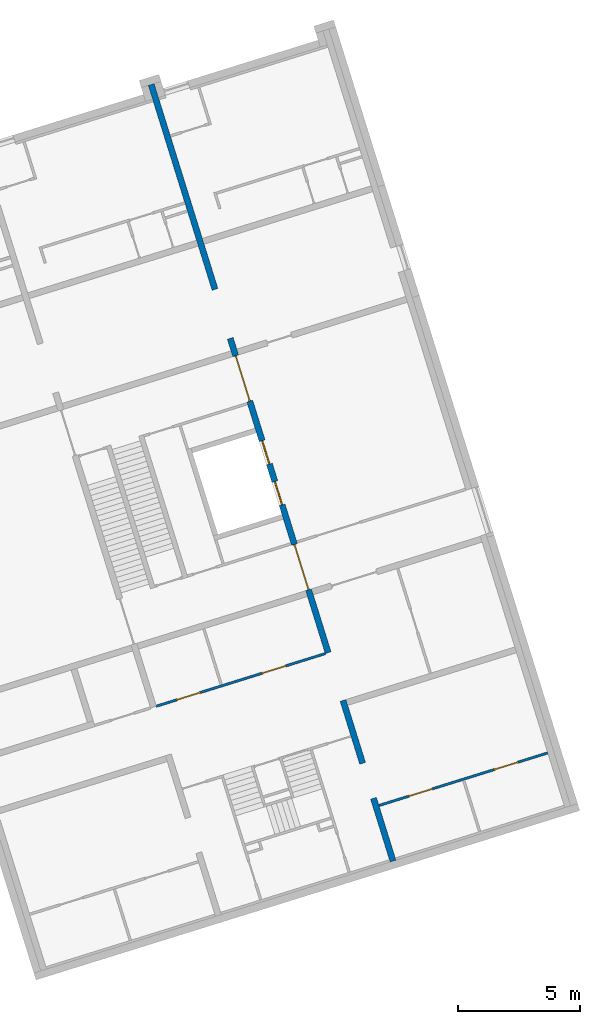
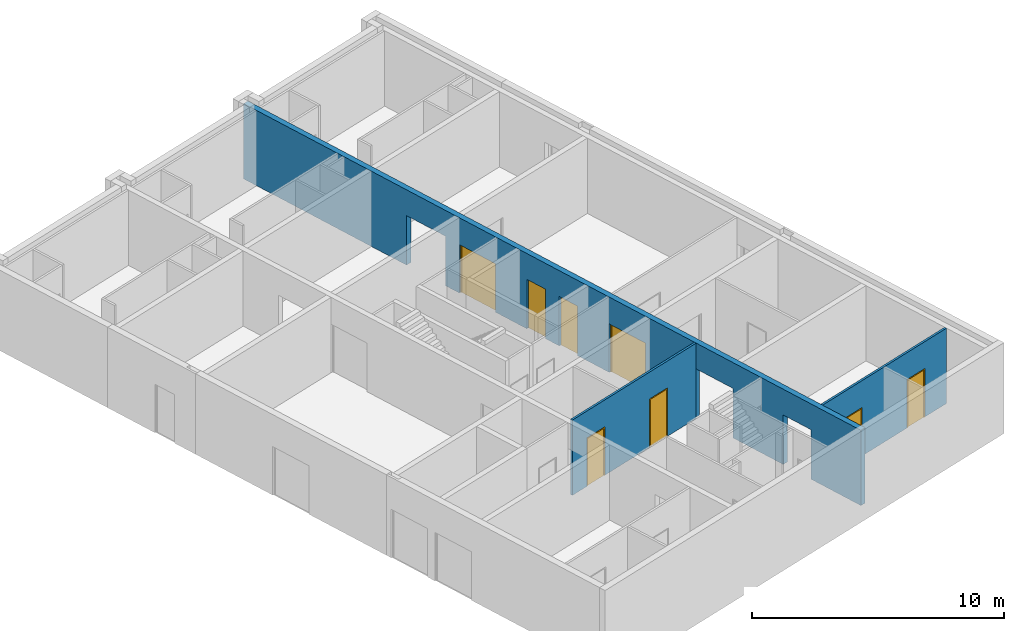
# One storey, part 8 of 10: 8 doors, 3 walls, 11 openings.
"""IFC4 building model written with IfcOpenShell, lengths in metres."""

from ifc_helpers import new_model, entity, si_unit, converted_unit, direction, frame, origin, place, context, subcontext, project, spatial, indexed_curve, outline, extrude, polygons, source, transform, mapped, material, constituent, constituent_set, type_object, type_shapes, element, fill, save


model = new_model("IFC4")

# Units and contexts
model_context = context("Model", 3, precision=1e-05, world=origin(), true_north=direction((6.12323399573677e-17, 1.0)))
body_context = subcontext(model_context, "Body", "Model", "MODEL_VIEW")
ifc_project = project(units=[si_unit("LENGTHUNIT", "METRE"), si_unit("AREAUNIT", "SQUARE_METRE"), converted_unit("PLANEANGLEUNIT", "DEGREE", entity("IfcPlaneAngleMeasure", 0.0174532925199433), si_unit("PLANEANGLEUNIT", "RADIAN"), dimensions=[0, 0, 0, 0, 0, 0, 0]), si_unit("VOLUMEUNIT", "CUBIC_METRE")], contexts=[model_context])

# Site, building, storey
site_placement = place(None, frame((13.1347999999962, 11.9886000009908, 0.0), z_axis=(0.0, 0.0, 1.0), x_axis=(0.954770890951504, 0.297342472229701, 0.0)))
site = spatial("IfcSite", under=ifc_project, at=site_placement, Name="Schiehaven", CompositionType="ELEMENT")
building_placement = place(site_placement, origin())
building = spatial("IfcBuilding", under=site, at=building_placement, Name="VORM huis", CompositionType="ELEMENT")
storey_placement = place(building_placement, origin())
storey = spatial("IfcBuildingStorey", under=building, at=storey_placement, Name="00 begane grond", CompositionType="ELEMENT", Elevation=0.0)

# Wall, openings, doors
ifc_material_1 = material(Name="beton_gewapend_ihw", Category="Miscellaneous")
wall_type_1 = type_object("IfcWallType", Name="Basic Wall:28_WA_skelet_wand 250mm_gen", PredefinedType="STANDARD")
wall_1_placement = place(storey_placement, frame((72.5000000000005, 0.374999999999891, 0.0), z_axis=(0.0, 0.0, 1.0), x_axis=(0.0, 1.0, 0.0)))
wall_1 = element("IfcWall", 1, at=wall_1_placement, inside=storey, type_object=wall_type_1, material=ifc_material_1, Name="Constructieve wand", ObjectType="Wand", PredefinedType="NOTDEFINED", context=body_context, shape_type="Tessellation", body=[
    polygons([(18.05, -0.125000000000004, 2.03576600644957e-32), (19.75, -0.125, 0.0), (19.75, -0.125, 2.34999999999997), (21.7, -0.125000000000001, 2.34999999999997), (21.7, -0.125000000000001, 0.0), (22.4500000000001, -0.125000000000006, 0.0), (22.4500000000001, -0.125000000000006, 2.4), (24.5500000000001, -0.124999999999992, 2.4), (24.5500000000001, -0.124999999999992, 0.0), (33.35, -0.125000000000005, 0.0), (33.35, -0.125000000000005, 3.65), (1.28590471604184e-15, -0.125000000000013, 3.65), (2.03037586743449e-15, -0.125000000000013, 0.0), (2.70000000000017, -0.125000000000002, 0.0), (2.70000000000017, -0.125000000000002, 2.4), (4.20000000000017, -0.124999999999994, 2.4), (4.20000000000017, -0.125000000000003, 0.0), (6.90000000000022, -0.125, 0.0), (6.90000000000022, -0.125, 2.4), (8.90000000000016, -0.125000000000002, 2.4), (8.90000000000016, -0.125000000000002, 0.0), (11.65, -0.125, 0.0), (11.65, -0.125, 2.34999999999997), (13.6, -0.125000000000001, 2.34999999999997), (13.6, -0.125000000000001, 0.0), (15.3, -0.125000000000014, 0.0), (15.3, -0.125000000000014, 2.39999999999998), (16.3, -0.125000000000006, 2.39999999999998), (16.3, -0.125000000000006, -1.48156555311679e-45), (17.05, -0.124999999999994, 0.0), (17.05, -0.124999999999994, 2.39999999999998), (18.05, -0.125000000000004, 2.39999999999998), (19.75, 0.125000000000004, 2.34999999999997), (19.75, 0.125000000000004, 0.0), (18.05, 0.125, -2.03576600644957e-32), (18.05, 0.125, 2.39999999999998), (17.05, 0.125000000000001, 2.39999999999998), (17.05, 0.125000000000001, -2.03576600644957e-32), (16.3, 0.125000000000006, -1.48156555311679e-45), (16.3, 0.125000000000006, 2.39999999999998), (15.3, 0.124999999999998, 2.39999999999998), (15.3, 0.124999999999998, 0.0), (13.6, 0.124999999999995, 0.0), (13.6, 0.124999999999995, 2.34999999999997), (11.65, 0.125000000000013, 2.34999999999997), (11.65, 0.125000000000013, 0.0), (11.4, 0.125, 0.0), (9.00000000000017, 0.125, 0.0), (8.90000000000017, 0.125000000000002, 0.0), (8.90000000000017, 0.125000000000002, 2.4), (6.90000000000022, 0.125000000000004, 2.4), (6.90000000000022, 0.125000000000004, 0.0), (4.20000000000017, 0.12500000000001, 0.0), (4.20000000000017, 0.12500000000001, 2.4), (2.70000000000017, 0.125000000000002, 2.4), (2.70000000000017, 0.125000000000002, 0.0), (2.23341345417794e-15, 0.124999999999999, 0.0), (1.48894230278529e-15, 0.124999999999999, 3.65), (8.90000000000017, 0.125000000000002, 3.65), (9.00000000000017, 0.125, 3.65), (11.4, 0.125, 3.65), (11.65, 0.125000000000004, 3.65), (21.7, 0.125000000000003, 3.65), (21.95, 0.124999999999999, 3.65), (33.35, 0.124999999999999, 3.65), (33.35, 0.124999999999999, 0.0), (24.5500000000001, 0.125000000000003, 0.0), (24.5500000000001, 0.125000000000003, 2.4), (22.4500000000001, 0.124999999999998, 2.4), (22.4500000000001, 0.124999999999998, 0.0), (21.95, 0.124999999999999, 0.0), (21.7, 0.125000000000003, 0.0), (21.7, 0.125000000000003, 2.34999999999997)], [[[1, 2, 3, 4, 5, 6, 7, 8, 9, 10, 11, 12, 13, 14, 15, 16, 17, 18, 19, 20, 21, 22, 23, 24, 25, 26, 27, 28, 29, 30, 31, 32]], [[33, 34, 35, 36, 37, 38, 39, 40, 41, 42, 43, 44, 45, 46, 47, 48, 49, 50, 51, 52, 53, 54, 55, 56, 57, 58, 59, 60, 61, 62, 63, 64, 65, 66, 67, 68, 69, 70, 71, 72, 73]], [[13, 57, 56, 14]], [[11, 10, 66, 65]], [[12, 11, 65, 64, 63, 62, 61, 60, 59, 58]], [[13, 12, 58, 57]], [[32, 36, 35, 1]], [[37, 31, 30, 38]], [[36, 32, 31, 37]], [[28, 40, 39, 29]], [[41, 27, 26, 42]], [[40, 28, 27, 41]], [[5, 4, 73, 72]], [[3, 2, 34, 33]], [[4, 3, 33, 73]], [[46, 45, 23, 22]], [[44, 43, 25, 24]], [[45, 44, 24, 23]], [[69, 7, 6, 70]], [[8, 68, 67, 9]], [[7, 69, 68, 8]], [[15, 55, 54, 16]], [[55, 15, 14, 56]], [[16, 54, 53, 17]], [[19, 51, 50, 20]], [[51, 19, 18, 52]], [[20, 50, 49, 21]], [[17, 53, 52, 18]], [[22, 21, 49, 48, 47, 46]], [[26, 25, 43, 42]], [[38, 30, 29, 39]], [[35, 34, 2, 1]], [[72, 71, 70, 6, 5]], [[66, 10, 9, 67]]], closed=True),
])
opening_1_placement = place(wall_1_placement, origin())
element("IfcOpeningElement", 2, at=opening_1_placement, cuts=wall_1, Name="Constructieve wand", PredefinedType="OPENING", context=body_context, shape_type="SweptSolid", body=[
    extrude(outline(indexed_curve([(-1.2, -1.05), (1.2, -1.05), (1.2, 1.05), (-1.2, 1.05), (-1.2, -1.05)], self_intersect=False)), frame((23.5000000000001, -0.124999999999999, 1.2), z_axis=(0.0, 1.0, 0.0), x_axis=(0.0, 0.0, -1.0)), (0.0, 0.0, 1.0), 0.249999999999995),
])
opening_2_placement = place(wall_1_placement, origin())
element("IfcOpeningElement", 3, at=opening_2_placement, cuts=wall_1, Name="Constructieve wand", PredefinedType="OPENING", context=body_context, shape_type="SweptSolid", body=[
    extrude(outline(indexed_curve([(-1.2, -0.75), (1.2, -0.75), (1.2, 0.750000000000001), (-1.2, 0.750000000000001), (-1.2, -0.75)], self_intersect=False)), frame((3.45000000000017, -0.124999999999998, 1.2), z_axis=(0.0, 1.0, 0.0), x_axis=(0.0, 0.0, -1.0)), (0.0, 0.0, 1.0), 0.249999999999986),
])
opening_3_placement = place(wall_1_placement, origin())
element("IfcOpeningElement", 4, at=opening_3_placement, cuts=wall_1, Name="Constructieve wand", PredefinedType="OPENING", context=body_context, shape_type="SweptSolid", body=[
    extrude(outline(indexed_curve([(-1.2, -1.02499999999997), (1.2, -1.02499999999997), (1.2, 1.02499999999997), (-1.2, 1.02499999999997), (-1.2, -1.02499999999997)], self_intersect=False)), frame((7.92500000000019, -0.124999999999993, 1.2), z_axis=(0.0, 1.0, 0.0), x_axis=(0.0, 0.0, -1.0)), (0.0, 0.0, 1.0), 0.249999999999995),
])
opening_4_placement = place(wall_1_placement, frame((-0.374999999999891, 72.5000000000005, 0.0), z_axis=(0.0, 0.0, 1.0), x_axis=(0.0, -1.0, 0.0)))
opening_4 = element("IfcOpeningElement", 5, at=opening_4_placement, cuts=wall_1, Name="Brandweerlift", PredefinedType="OPENING", context=body_context, shape_type="SweptSolid", body=[
    extrude(outline(indexed_curve([(-1.19999999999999, -0.500000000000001), (1.19999999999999, -0.500000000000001), (1.19999999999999, 0.499999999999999), (-1.19999999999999, 0.499999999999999), (-1.19999999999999, -0.500000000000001)], self_intersect=False)), frame((72.7936720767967, 17.9249999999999, 1.19999999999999), z_axis=(-1.0, 0.0, 0.0), x_axis=(0.0, 0.0, -1.0)), (0.0, 0.0, 1.0), 0.756310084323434),
])
opening_5_placement = place(wall_1_placement, frame((-0.374999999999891, 72.5000000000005, 0.0), z_axis=(0.0, 0.0, 1.0), x_axis=(0.0, -1.0, 0.0)))
opening_5 = element("IfcOpeningElement", 6, at=opening_5_placement, cuts=wall_1, Name="Brandweerlift", PredefinedType="OPENING", context=body_context, shape_type="SweptSolid", body=[
    extrude(outline(indexed_curve([(-1.19999999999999, -0.499999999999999), (1.19999999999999, -0.499999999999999), (1.19999999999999, 0.500000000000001), (-1.19999999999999, 0.500000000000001), (-1.19999999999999, -0.499999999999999)], self_intersect=False)), frame((72.7936720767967, 16.1749999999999, 1.19999999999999), z_axis=(-1.0, 0.0, 0.0), x_axis=(0.0, 0.0, -1.0)), (0.0, 0.0, 1.0), 0.756310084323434),
])
opening_6_placement = place(wall_1_placement, frame((13.6, 0.125000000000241, 0.0)))
opening_6 = element("IfcOpeningElement", 7, at=opening_6_placement, cuts=wall_1, Name="Vluchtdeur", PredefinedType="OPENING", context=body_context, shape_type="SweptSolid", body=[
    extrude(outline(indexed_curve([(2.34999999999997, 1.95), (0.0, 1.95), (0.0, 2.1657342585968e-15), (2.34999999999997, 2.1657342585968e-15), (2.34999999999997, 1.95)], self_intersect=False)), frame((0.0, 0.0, 0.0), z_axis=(0.0, -1.0, 0.0), x_axis=(0.0, 0.0, 1.0)), (0.0, 0.0, 1.0), 0.25),
])
opening_7_placement = place(wall_1_placement, frame((21.7, 0.125000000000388, 0.0)))
opening_7 = element("IfcOpeningElement", 8, at=opening_7_placement, cuts=wall_1, Name="Vluchtdeur", PredefinedType="OPENING", context=body_context, shape_type="SweptSolid", body=[
    extrude(outline(indexed_curve([(2.34999999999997, 1.50842700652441e-29), (2.34999999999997, 1.95), (0.0, 1.95), (0.0, 1.50842700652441e-29), (2.34999999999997, 1.50842700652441e-29)], self_intersect=False)), frame((0.0, 0.0, 0.0), z_axis=(0.0, -1.0, 0.0), x_axis=(0.0, 0.0, 1.0)), (0.0, 0.0, 1.0), 0.25),
])
ifc_material_2 = material(Name="metaal_aluminium_ntb", Category="Miscellaneous")
door_type_1 = type_object("IfcDoorType", Name="66_WI_liftdeur:brandweerlift - tweezijdig toegankelijk", OperationType="NOTDEFINED", PredefinedType="DOOR", material=ifc_material_2)
shared_shape_1 = source(origin(), body_context, "Body", "SweptSolid", [
    extrude(outline(indexed_curve([(-0.0250000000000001, -0.25), (0.0249999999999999, -0.25), (0.0250000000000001, 0.25), (-0.0249999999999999, 0.25), (-0.0250000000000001, -0.25)], self_intersect=False)), frame((0.250000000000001, 0.462638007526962, 0.0), z_axis=(0.0, 0.0, 1.0), x_axis=(0.0, 1.0, 0.0)), (0.0, 0.0, 1.0), 2.39999999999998),
    extrude(outline(indexed_curve([(-0.0250000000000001, -0.25), (0.0249999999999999, -0.25), (0.0250000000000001, 0.25), (-0.0249999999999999, 0.25), (-0.0250000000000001, -0.25)], self_intersect=False)), frame((0.750000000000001, 0.46263800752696, 0.0), z_axis=(0.0, 0.0, 1.0), x_axis=(0.0, 1.0, 0.0)), (0.0, 0.0, 1.0), 2.39999999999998),
])
type_shapes(door_type_1, [shared_shape_1])
door_1_placement = place(opening_5_placement, frame((72.0373619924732, 16.6749999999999, 0.0), z_axis=(0.0, 0.0, 1.0), x_axis=(0.0, -1.0, 0.0)))
door_1 = element("IfcDoor", 9, at=door_1_placement, inside=storey, type_object=door_type_1, material=ifc_material_2, Name="Brandweerlift", ObjectType="Transport", OperationType="NOTDEFINED", OverallHeight=2.39999999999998, OverallWidth=1.0, PredefinedType="DOOR", context=body_context, shape_type="MappedRepresentation", body=[
    mapped(shared_shape_1, transform((0.0, 0.0, 0.0), scale=1.0)),
])
fill(opening_5, door_1)
door_2_placement = place(opening_4_placement, frame((72.0373619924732, 18.4249999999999, 0.0), z_axis=(0.0, 0.0, 1.0), x_axis=(0.0, -1.0, 0.0)))
door_2 = element("IfcDoor", 10, at=door_2_placement, inside=storey, type_object=door_type_1, material=ifc_material_2, Name="Brandweerlift", ObjectType="Transport", OperationType="NOTDEFINED", OverallHeight=2.39999999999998, OverallWidth=1.0, PredefinedType="DOOR", context=body_context, shape_type="MappedRepresentation", body=[
    mapped(shared_shape_1, transform((0.0, 0.0, 0.0), scale=1.0)),
])
fill(opening_4, door_2)
ifc_material_3 = material(Name="PD_a_binnenwandopeningen", Category="Miscellaneous")
ifc_constituent_1 = constituent(ifc_material_3, Name="PD_a_binnenwandopeningen", Category="Miscellaneous")
ifc_constituent_2 = constituent(ifc_material_2, Name="metaal_aluminium_ntb", Category="Miscellaneous")
ifc_constituent_set_1 = constituent_set(constituents=[ifc_constituent_1, ifc_constituent_2])
ifc_constituent_3 = constituent(ifc_material_3, Name="PD_a_binnenwandopeningen", Category="Miscellaneous")
ifc_constituent_4 = constituent(ifc_material_2, Name="Panel", Category="Miscellaneous")
ifc_constituent_set_2 = constituent_set(constituents=[ifc_constituent_3, ifc_constituent_4])
door_type_2 = type_object("IfcDoorType", Name="32_DO_binnendeur dubbel:binnendeur zelfsluitend 30min", OperationType="NOTDEFINED", PredefinedType="DOOR", material=ifc_constituent_set_2)
shared_shape_2 = source(origin(), body_context, "Body", "SweptSolid", [
    extrude(outline(indexed_curve([(0.925, -1.16249999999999), (0.975, -1.16249999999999), (0.975, 1.18749999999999), (-0.975, 1.18749999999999), (-0.975, -1.16249999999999), (-0.925, -1.16249999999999), (-0.925, 1.13749999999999), (0.925, 1.13749999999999), (0.925, -1.16249999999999)], self_intersect=False)), frame((0.975000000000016, 0.175000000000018, 1.16249999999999), z_axis=(0.0, -1.0, 0.0), x_axis=(1.0, 0.0, 0.0)), (0.0, 0.0, 1.0), 0.1),
    extrude(outline(indexed_curve([(-0.462499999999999, -0.025), (0.462499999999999, -0.025), (0.462499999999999, 0.025), (-0.462499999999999, 0.025), (-0.462499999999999, -0.025)], self_intersect=False)), frame((0.512500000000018, 0.124999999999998, 0.0)), (0.0, 0.0, 1.0), 2.29999999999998),
    extrude(outline(indexed_curve([(-0.4625, -0.025), (0.4625, -0.025), (0.4625, 0.025), (-0.4625, 0.025), (-0.4625, -0.025)], self_intersect=False)), frame((1.43750000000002, 0.125000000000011, 0.0)), (0.0, 0.0, 1.0), 2.29999999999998),
])
type_shapes(door_type_2, [shared_shape_2])
door_3_placement = place(opening_7_placement, frame((0.0, 0.0, 0.0), z_axis=(0.0, 0.0, 1.0), x_axis=(-1.0, 0.0, 0.0)))
door_3 = element("IfcDoor", 11, at=door_3_placement, inside=storey, type_object=door_type_2, material=ifc_constituent_set_1, Name="Vluchtdeur", ObjectType="Deur", OperationType="NOTDEFINED", OverallHeight=2.34999999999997, OverallWidth=1.95, PredefinedType="DOOR", context=body_context, shape_type="MappedRepresentation", body=[
    mapped(shared_shape_2, transform((0.0, 0.0, 0.0), scale=1.0)),
])
fill(opening_7, door_3)
ifc_constituent_5 = constituent(ifc_material_3, Name="PD_a_binnenwandopeningen", Category="Miscellaneous")
ifc_constituent_6 = constituent(ifc_material_2, Name="metaal_aluminium_ntb", Category="Miscellaneous")
ifc_constituent_set_3 = constituent_set(constituents=[ifc_constituent_5, ifc_constituent_6])
ifc_constituent_7 = constituent(ifc_material_3, Name="PD_a_binnenwandopeningen", Category="Miscellaneous")
ifc_constituent_8 = constituent(ifc_material_2, Name="Panel", Category="Miscellaneous")
ifc_constituent_set_4 = constituent_set(constituents=[ifc_constituent_7, ifc_constituent_8])
door_type_3 = type_object("IfcDoorType", Name="32_DO_binnendeur dubbel:binnendeur zelfsluitend 30min", OperationType="NOTDEFINED", PredefinedType="DOOR", material=ifc_constituent_set_4)
shared_shape_3 = source(origin(), body_context, "Body", "SweptSolid", [
    extrude(outline(indexed_curve([(-1.16249999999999, -0.975), (1.18749999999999, -0.975), (1.18749999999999, 0.975), (-1.16249999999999, 0.975), (-1.16249999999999, 0.925), (1.13749999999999, 0.925), (1.13749999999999, -0.925), (-1.16249999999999, -0.925), (-1.16249999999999, -0.975)], self_intersect=False)), frame((0.975, 0.075000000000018, 1.16249999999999), z_axis=(0.0, 1.0, 0.0), x_axis=(0.0, 0.0, 1.0)), (0.0, 0.0, 1.0), 0.1),
    extrude(outline(indexed_curve([(-0.025, -0.462499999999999), (0.025, -0.462499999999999), (0.025, 0.462499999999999), (-0.025, 0.462499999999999), (-0.025, -0.462499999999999)], self_intersect=False)), frame((1.4375, 0.124999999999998, 0.0), z_axis=(0.0, 0.0, 1.0), x_axis=(0.0, 1.0, 0.0)), (0.0, 0.0, 1.0), 2.29999999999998),
    extrude(outline(indexed_curve([(-0.0249999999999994, -0.4625), (0.0250000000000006, -0.4625), (0.0249999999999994, 0.4625), (-0.0250000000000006, 0.4625), (-0.0249999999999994, -0.4625)], self_intersect=False)), frame((0.5125, 0.125000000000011, 0.0), z_axis=(0.0, 0.0, 1.0), x_axis=(0.0, 1.0, 0.0)), (0.0, 0.0, 1.0), 2.29999999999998),
])
type_shapes(door_type_3, [shared_shape_3])
door_4_placement = place(opening_6_placement, frame((0.0, 0.0, 0.0), z_axis=(0.0, 0.0, 1.0), x_axis=(-1.0, 0.0, 0.0)))
door_4 = element("IfcDoor", 12, at=door_4_placement, inside=storey, type_object=door_type_3, material=ifc_constituent_set_3, Name="Vluchtdeur", ObjectType="Deur", OperationType="NOTDEFINED", OverallHeight=2.34999999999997, OverallWidth=1.95, PredefinedType="DOOR", context=body_context, shape_type="MappedRepresentation", body=[
    mapped(shared_shape_3, transform((0.0, 0.0, 0.0), scale=1.0)),
])
fill(opening_6, door_4)

ifc_material_4 = material(Name="ntb_ntb_ntb", Category="Miscellaneous")
wall_type_2 = type_object("IfcWallType", Name="Basic Wall:22_WA_afbouw_binnenwand 100mm_gen", PredefinedType="STANDARD")
wall_2_placement = place(storey_placement, frame((79.8750000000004, 2.72500000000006, 0.0), z_axis=(0.0, 0.0, 1.0), x_axis=(-1.0, 0.0, 0.0)))
wall_2 = element("IfcWall", 13, at=wall_2_placement, inside=storey, type_object=wall_type_2, material=ifc_material_4, Name="Binnenwand", ObjectType="Wand", PredefinedType="NOTDEFINED", context=body_context, shape_type="Tessellation", body=[
    polygons([(7.42020312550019e-16, -0.05, 0.0), (1.26250000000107, -0.0500000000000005, 0.0), (1.26250000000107, -0.0500000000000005, 2.34999999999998), (2.31250000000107, -0.05, 2.34999999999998), (2.31250000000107, -0.05, 0.0), (4.9375000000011, -0.0500000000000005, 0.0), (4.9375000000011, -0.0500000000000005, 2.34999999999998), (5.9875000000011, -0.05, 2.34999999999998), (5.9875000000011, -0.05, 0.0), (7.25000000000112, -0.0500000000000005, 0.0), (7.25000000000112, -0.0500000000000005, 3.65), (7.42020312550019e-16, -0.05, 3.65), (1.26250000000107, 0.0499999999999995, 2.34999999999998), (1.26250000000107, 0.0499999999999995, 0.0), (7.15280841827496e-16, 0.05, 0.0), (7.15280841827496e-16, 0.05, 3.65), (3.57500000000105, 0.0499999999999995, 3.65), (3.67500000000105, 0.0499999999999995, 3.65), (7.25000000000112, 0.0499999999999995, 3.65), (7.25000000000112, 0.0499999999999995, 0.0), (5.9875000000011, 0.05, 0.0), (5.9875000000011, 0.05, 2.34999999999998), (4.9375000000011, 0.0499999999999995, 2.34999999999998), (4.9375000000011, 0.0499999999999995, 0.0), (3.67500000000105, 0.0499999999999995, 0.0), (3.57500000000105, 0.0499999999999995, 0.0), (2.31250000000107, 0.05, 0.0), (2.31250000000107, 0.05, 2.34999999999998)], [[[1, 2, 3, 4, 5, 6, 7, 8, 9, 10, 11, 12]], [[13, 14, 15, 16, 17, 18, 19, 20, 21, 22, 23, 24, 25, 26, 27, 28]], [[10, 9, 21, 20]], [[11, 10, 20, 19]], [[12, 11, 19, 18, 17, 16]], [[1, 12, 16, 15]], [[24, 23, 7, 6]], [[22, 21, 9, 8]], [[23, 22, 8, 7]], [[5, 4, 28, 27]], [[3, 2, 14, 13]], [[4, 3, 13, 28]], [[15, 14, 2, 1]], [[27, 26, 25, 24, 6, 5]]], closed=True),
])
opening_8_placement = place(wall_2_placement, frame((5.98750000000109, 0.0499999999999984, 0.0)))
opening_8 = element("IfcOpeningElement", 14, at=opening_8_placement, cuts=wall_2, Name="Binnendeur", PredefinedType="OPENING", context=body_context, shape_type="SweptSolid", body=[
    extrude(outline(indexed_curve([(2.34999999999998, 1.05), (0.0, 1.05), (0.0, 0.0), (2.34999999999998, 0.0), (2.34999999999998, 1.05)], self_intersect=False)), frame((0.0, 0.0, 0.0), z_axis=(0.0, -1.0, 0.0), x_axis=(0.0, 0.0, 1.0)), (0.0, 0.0, 1.0), 0.1),
])
opening_9_placement = place(wall_2_placement, frame((2.31250000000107, 0.0499999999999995, 0.0)))
opening_9 = element("IfcOpeningElement", 15, at=opening_9_placement, cuts=wall_2, Name="Binnendeur", PredefinedType="OPENING", context=body_context, shape_type="SweptSolid", body=[
    extrude(outline(indexed_curve([(2.34999999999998, 5.68505242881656e-15), (2.34999999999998, 1.05), (0.0, 1.05000000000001), (0.0, 5.68505242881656e-15), (2.34999999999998, 5.68505242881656e-15)], self_intersect=False)), frame((0.0, 0.0, 0.0), z_axis=(0.0, -1.0, 0.0), x_axis=(0.0, 0.0, 1.0)), (0.0, 0.0, 1.0), 0.1),
])
ifc_constituent_9 = constituent(ifc_material_3, Name="PD_a_binnenwandopeningen", Category="Miscellaneous")
ifc_constituent_10 = constituent(ifc_material_2, Name="metaal_aluminium_ntb", Category="Miscellaneous")
ifc_constituent_set_5 = constituent_set(constituents=[ifc_constituent_9, ifc_constituent_10])
ifc_constituent_11 = constituent(ifc_material_3, Name="PD_a_binnenwandopeningen", Category="Miscellaneous")
ifc_constituent_12 = constituent(ifc_material_2, Name="Panel", Category="Miscellaneous")
ifc_constituent_set_6 = constituent_set(constituents=[ifc_constituent_11, ifc_constituent_12])
door_type_4 = type_object("IfcDoorType", Name="32_DO_binnendeur enkel:binnendeur", OperationType="REVOLVING", PredefinedType="DOOR", material=ifc_constituent_set_6)
shared_shape_4 = source(origin(), body_context, "Body", "SweptSolid", [
    extrude(outline(indexed_curve([(0.475, -1.16249999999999), (0.525, -1.16249999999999), (0.525, 1.18749999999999), (-0.525, 1.18749999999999), (-0.525, -1.16249999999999), (-0.475, -1.16249999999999), (-0.475, 1.13749999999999), (0.475, 1.13749999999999), (0.475, -1.16249999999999)], self_intersect=False)), frame((0.525000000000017, 0.100000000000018, 1.16249999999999), z_axis=(0.0, -1.0, 0.0), x_axis=(1.0, 0.0, 0.0)), (0.0, 0.0, 1.0), 0.1),
    extrude(outline(indexed_curve([(-0.475, -0.025), (0.475, -0.025), (0.475, 0.025), (-0.475, 0.025), (-0.475, -0.025)], self_intersect=False)), frame((0.525000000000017, 0.0499999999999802, 0.0)), (0.0, 0.0, 1.0), 2.29999999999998),
])
type_shapes(door_type_4, [shared_shape_4])
door_5_placement = place(opening_9_placement, frame((0.0, 0.0, 0.0), z_axis=(0.0, 0.0, 1.0), x_axis=(-1.0, 0.0, 0.0)))
door_5 = element("IfcDoor", 16, at=door_5_placement, inside=storey, type_object=door_type_4, material=ifc_constituent_set_5, Name="Binnendeur", ObjectType="Deur", OperationType="REVOLVING", OverallHeight=2.34999999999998, OverallWidth=1.05, PredefinedType="DOOR", context=body_context, shape_type="MappedRepresentation", body=[
    mapped(shared_shape_4, transform((0.0, 0.0, 0.0), scale=1.0)),
])
fill(opening_9, door_5)
ifc_constituent_13 = constituent(ifc_material_3, Name="PD_a_binnenwandopeningen", Category="Miscellaneous")
ifc_constituent_14 = constituent(ifc_material_2, Name="metaal_aluminium_ntb", Category="Miscellaneous")
ifc_constituent_set_7 = constituent_set(constituents=[ifc_constituent_13, ifc_constituent_14])
ifc_constituent_15 = constituent(ifc_material_3, Name="PD_a_binnenwandopeningen", Category="Miscellaneous")
ifc_constituent_16 = constituent(ifc_material_2, Name="Panel", Category="Miscellaneous")
ifc_constituent_set_8 = constituent_set(constituents=[ifc_constituent_15, ifc_constituent_16])
door_type_5 = type_object("IfcDoorType", Name="32_DO_binnendeur enkel:binnendeur", OperationType="REVOLVING", PredefinedType="DOOR", material=ifc_constituent_set_8)
shared_shape_5 = source(origin(), body_context, "Body", "SweptSolid", [
    extrude(outline(indexed_curve([(-1.16249999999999, -0.525000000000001), (1.18749999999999, -0.525), (1.18749999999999, 0.525), (-1.16249999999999, 0.525), (-1.16249999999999, 0.475), (1.13749999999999, 0.475), (1.13749999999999, -0.475), (-1.16249999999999, -0.475), (-1.16249999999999, -0.525000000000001)], self_intersect=False)), frame((0.525000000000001, 0.0, 1.16249999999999), z_axis=(0.0, 1.0, 0.0), x_axis=(0.0, 0.0, 1.0)), (0.0, 0.0, 1.0), 0.1),
    extrude(outline(indexed_curve([(-0.025, -0.475), (0.025, -0.475), (0.025, 0.475), (-0.025, 0.475), (-0.025, -0.475)], self_intersect=False)), frame((0.525000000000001, 0.0499999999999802, 0.0), z_axis=(0.0, 0.0, 1.0), x_axis=(0.0, 1.0, 0.0)), (0.0, 0.0, 1.0), 2.29999999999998),
])
type_shapes(door_type_5, [shared_shape_5])
door_6_placement = place(opening_8_placement, frame((0.0, 0.0, 0.0), z_axis=(0.0, 0.0, 1.0), x_axis=(-1.0, 0.0, 0.0)))
door_6 = element("IfcDoor", 17, at=door_6_placement, inside=storey, type_object=door_type_5, material=ifc_constituent_set_7, Name="Binnendeur", ObjectType="Deur", OperationType="REVOLVING", OverallHeight=2.34999999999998, OverallWidth=1.05, PredefinedType="DOOR", context=body_context, shape_type="MappedRepresentation", body=[
    mapped(shared_shape_5, transform((0.0, 0.0, 0.0), scale=1.0)),
])
fill(opening_8, door_6)

wall_3_placement = place(storey_placement, frame((65.1250000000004, 9.32500000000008, 0.0)))
wall_3 = element("IfcWall", 18, at=wall_3_placement, inside=storey, type_object=wall_type_2, material=ifc_material_4, Name="Binnenwand", ObjectType="Wand", PredefinedType="NOTDEFINED", context=body_context, shape_type="Tessellation", body=[
    polygons([(5.57500000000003, -0.0499999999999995, 2.34999999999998), (5.57500000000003, -0.0499999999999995, 0.0), (7.24999999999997, -0.0500000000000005, 0.0), (7.24999999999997, -0.0499999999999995, 2.4), (7.24999999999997, -0.0500000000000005, 3.65), (-3.45023637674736e-15, -0.0499999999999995, 3.65), (-3.45023637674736e-15, -0.0499999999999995, 2.4), (-3.45023637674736e-15, -0.0499999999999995, 0.0), (0.850000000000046, -0.0499999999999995, 0.0), (0.850000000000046, -0.0499999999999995, 2.34999999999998), (1.90000000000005, -0.0500000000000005, 2.34999999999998), (1.90000000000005, -0.0500000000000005, 0.0), (4.52500000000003, -0.0500000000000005, 0.0), (4.52500000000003, -0.0500000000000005, 2.34999999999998), (7.24999999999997, 0.0500000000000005, 0.0), (5.57500000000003, 0.0500000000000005, 0.0), (5.57500000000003, 0.0500000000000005, 2.34999999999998), (4.52500000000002, 0.0500000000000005, 2.34999999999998), (4.52500000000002, 0.0500000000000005, 0.0), (2.85000000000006, 0.0500000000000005, 0.0), (2.75000000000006, 0.0500000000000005, 0.0), (1.90000000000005, 0.0500000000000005, 0.0), (1.90000000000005, 0.0500000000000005, 2.34999999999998), (0.850000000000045, 0.0499999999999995, 2.34999999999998), (0.850000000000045, 0.0499999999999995, 0.0), (-3.76763850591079e-15, 0.0500000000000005, 0.0), (-3.76763850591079e-15, 0.0500000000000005, 3.65), (2.75000000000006, 0.0500000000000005, 3.65), (2.85000000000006, 0.0500000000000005, 3.65), (7.24999999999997, 0.0500000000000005, 3.65)], [[[1, 2, 3, 4, 5, 6, 7, 8, 9, 10, 11, 12, 13, 14]], [[15, 16, 17, 18, 19, 20, 21, 22, 23, 24, 25, 26, 27, 28, 29, 30]], [[9, 8, 26, 25]], [[6, 5, 30, 29, 28, 27]], [[8, 7, 6, 27, 26]], [[5, 4, 3, 15, 30]], [[25, 24, 10, 9]], [[23, 22, 12, 11]], [[24, 23, 11, 10]], [[19, 18, 14, 13]], [[17, 16, 2, 1]], [[18, 17, 1, 14]], [[13, 12, 22, 21, 20, 19]], [[3, 2, 16, 15]]], closed=True),
])
opening_10_placement = place(wall_3_placement, frame((1.90000000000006, 0.049999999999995, 0.0)))
opening_10 = element("IfcOpeningElement", 19, at=opening_10_placement, cuts=wall_3, Name="Binnendeur", PredefinedType="OPENING", context=body_context, shape_type="SweptSolid", body=[
    extrude(outline(indexed_curve([(2.34999999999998, 1.05), (0.0, 1.05), (0.0, -3.16852431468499e-30), (2.34999999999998, -3.16852431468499e-30), (2.34999999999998, 1.05)], self_intersect=False)), frame((0.0, 0.0, 0.0), z_axis=(0.0, -1.0, 0.0), x_axis=(0.0, 0.0, 1.0)), (0.0, 0.0, 1.0), 0.1),
])
opening_11_placement = place(wall_3_placement, frame((5.57500000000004, 0.0499999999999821, 0.0)))
opening_11 = element("IfcOpeningElement", 20, at=opening_11_placement, cuts=wall_3, Name="Binnendeur", PredefinedType="OPENING", context=body_context, shape_type="SweptSolid", body=[
    extrude(outline(indexed_curve([(2.34999999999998, 1.05), (0.0, 1.05), (0.0, -3.16852431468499e-30), (2.34999999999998, -3.16852431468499e-30), (2.34999999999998, 1.05)], self_intersect=False)), frame((0.0, 0.0, 0.0), z_axis=(0.0, -1.0, 0.0), x_axis=(0.0, 0.0, 1.0)), (0.0, 0.0, 1.0), 0.1),
])
ifc_constituent_17 = constituent(ifc_material_3, Name="PD_a_binnenwandopeningen", Category="Miscellaneous")
ifc_constituent_18 = constituent(ifc_material_2, Name="metaal_aluminium_ntb", Category="Miscellaneous")
ifc_constituent_set_9 = constituent_set(constituents=[ifc_constituent_17, ifc_constituent_18])
door_7_placement = place(opening_10_placement, frame((0.0, 0.0, 0.0), z_axis=(0.0, 0.0, 1.0), x_axis=(-1.0, 0.0, 0.0)))
door_7 = element("IfcDoor", 21, at=door_7_placement, inside=storey, type_object=door_type_5, material=ifc_constituent_set_9, Name="Binnendeur", ObjectType="Deur", OperationType="REVOLVING", OverallHeight=2.34999999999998, OverallWidth=1.05, PredefinedType="DOOR", context=body_context, shape_type="MappedRepresentation", body=[
    mapped(shared_shape_5, transform((0.0, 0.0, 0.0), scale=1.0)),
])
fill(opening_10, door_7)
ifc_constituent_19 = constituent(ifc_material_3, Name="PD_a_binnenwandopeningen", Category="Miscellaneous")
ifc_constituent_20 = constituent(ifc_material_2, Name="metaal_aluminium_ntb", Category="Miscellaneous")
ifc_constituent_set_10 = constituent_set(constituents=[ifc_constituent_19, ifc_constituent_20])
door_8_placement = place(opening_11_placement, frame((0.0, 0.0, 0.0), z_axis=(0.0, 0.0, 1.0), x_axis=(-1.0, 0.0, 0.0)))
door_8 = element("IfcDoor", 22, at=door_8_placement, inside=storey, type_object=door_type_5, material=ifc_constituent_set_10, Name="Binnendeur", ObjectType="Deur", OperationType="REVOLVING", OverallHeight=2.34999999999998, OverallWidth=1.05, PredefinedType="DOOR", context=body_context, shape_type="MappedRepresentation", body=[
    mapped(shared_shape_5, transform((0.0, 0.0, 0.0), scale=1.0)),
])
fill(opening_11, door_8)

save(model, "model.ifc")
